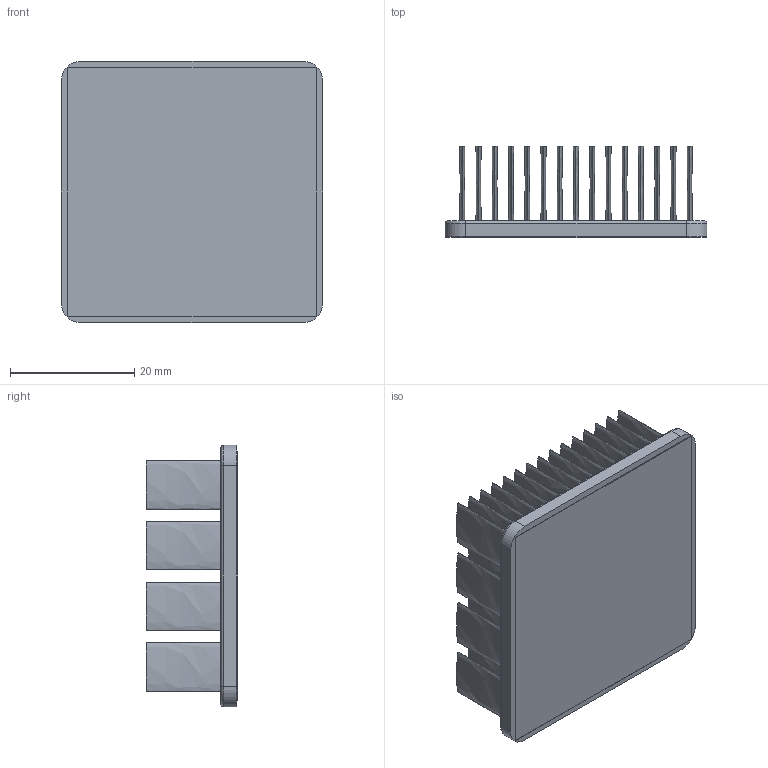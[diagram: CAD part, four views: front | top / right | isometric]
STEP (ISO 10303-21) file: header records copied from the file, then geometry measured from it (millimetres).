
FILE_DESCRIPTION (( 'STEP AP214' ), '1' );
FILE_NAME ('INM42.5001-15W-2.6 .STEP', '2023-02-28T00:09:12', ( '' ), ( '' ), 'SwSTEP 2.0', 'SolidWorks 2020', '' );
FILE_SCHEMA (( 'AUTOMOTIVE_DESIGN' ));
Length unit declared in the file: inch
Products named in the file (1): INM42.5001-15W-2.6 
Bounding box: 42.1 x 14.73 x 42.1 mm (x, y, z)
Volume: 8510.6 mm3; surface area: 18674.1 mm2
Topology: 2 solids, 2 shells, 204 faces, 412 edges, 272 vertices
Faces by surface type: bspline 120, plane 72, cylinder 8, torus 4
Entity records: 8275 total; most frequent: CARTESIAN_POINT 2449, ORIENTED_EDGE 824, EDGE_CURVE 412, DIRECTION 362, VERTEX_POINT 272, EDGE_LOOP 264, DIMENSIONAL_EXPONENTS 208, LENGTH_MEASURE_WITH_UNIT 208
